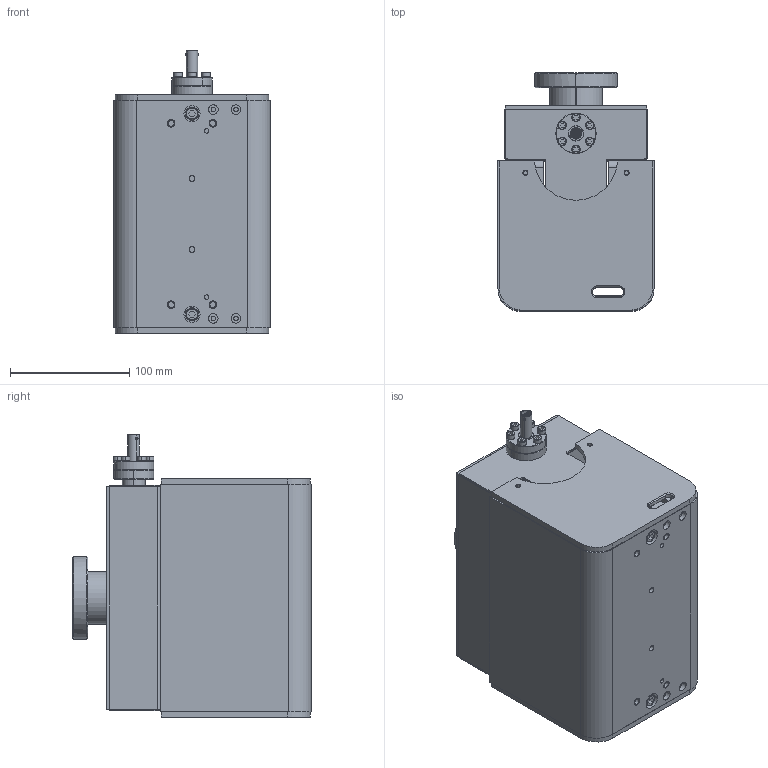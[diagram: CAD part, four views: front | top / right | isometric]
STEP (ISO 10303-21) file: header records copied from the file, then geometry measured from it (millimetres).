
FILE_DESCRIPTION((''),'2;1');
FILE_NAME('45S-XX-2V-XX','2020-12-02T11:36:10',('langebj'),('Gamma Vacuum, LLC'),'CREO PARAMETRIC BY PTC INC, 2020044','CREO PARAMETRIC BY PTC INC, 2020044','');
FILE_SCHEMA(('AUTOMOTIVE_DESIGN { 1 0 10303 214 1 1 1 1 }'));
Products named in the file (1): 45S-XX-2V-XX
Bounding box: 131.2 x 200.41 x 237.37 mm (x, y, z)
Surface area: 480293.5 mm2 (no closed solid volume)
Topology: 0 solids, 0 shells, 946 faces, 4702 edges, 4668 vertices
Faces by surface type: cylinder 384, plane 356, cone 160, torus 44, sphere 2
Entity records: 68925 total; most frequent: CARTESIAN_POINT 16549, DIRECTION 9051, TRIMMED_CURVE 6108, VECTOR 5074, LINE 5074, DEFINITIONAL_REPRESENTATION 4636, PCURVE 4636, COMPOSITE_CURVE_SEGMENT 4636
